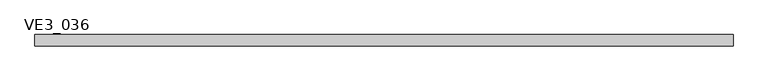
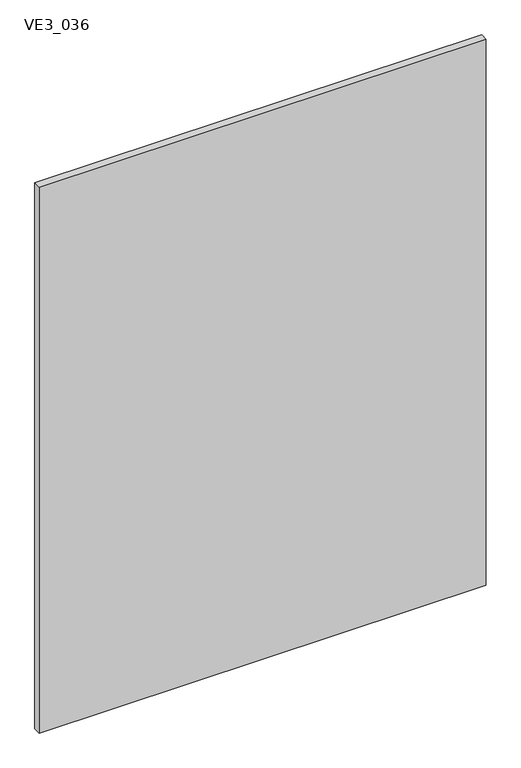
"""IFC4 building model written with IfcOpenShell, lengths in millimetres: plate geometry, TRP_CP_ARC_PF_RE_SE : VE3_036."""

from ifc_helpers import new_model, si_unit, frame, origin, place, context, project, spatial, polyline, outline, extrude, source, transform, mapped, element, save


def ve3_036_90e3407d(model_context):
    return source(origin(), model_context, "Body", "SweptSolid", [
        extrude(outline(polyline([(1124.2686904, 18.0), (1124.2686904, -18.0), (-1124.2686904, -18.0), (-1124.2686904, 18.0), (1124.2686904, 18.0)])), frame((0.0, 0.0, -3.1739529), z_axis=(0.0, 0.0, 1.0), x_axis=(1.0, 0.0, 0.0)), (0.0, 0.0, 1.0), 2903.1739529),
    ])


if __name__ == "__main__":
    model = new_model("IFC4")
    model_context = context("Model", 3, world=origin())
    ifc_project = project(units=[si_unit("LENGTHUNIT", "METRE", prefix="MILLI")], contexts=[model_context])
    site = spatial("IfcSite", under=ifc_project)
    building = spatial("IfcBuilding", under=site)
    placement = place(None, origin())
    ve3_036_shape = ve3_036_90e3407d(model_context)
    element("IfcPlate", 1, ObjectType="TRP_CP_ARC_PF_RE_SE : VE3_036", at=placement, inside=building, context=model_context, shape_type="MappedRepresentation", body=[
        mapped(ve3_036_shape, transform((0.0, 0.0, 0.0), x_axis=(1.0, 0.0, 0.0), y_axis=(0.0, 1.0, 0.0), z_axis=(0.0, 0.0, 1.0))),
    ])
    save(model, "model.ifc")
